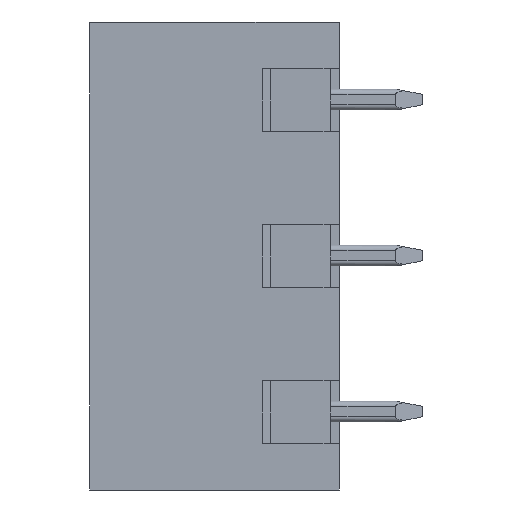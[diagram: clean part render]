
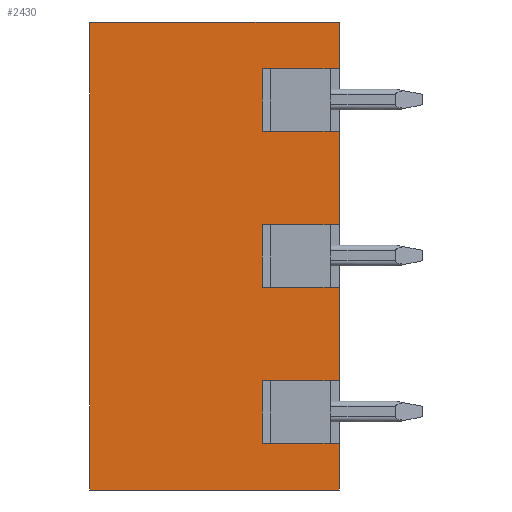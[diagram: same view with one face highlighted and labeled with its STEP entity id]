
A CAD part, left-side view. The second image highlights one B-rep face of the part: STEP entity #2430.
In plain terms, the highlighted planar face has unit normal (-1, 0, 0).
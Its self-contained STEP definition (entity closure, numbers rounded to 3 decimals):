
#1=DIRECTION('',(0.,1.,0.));
#2=VECTOR('',#1,12.);
#3=CARTESIAN_POINT('',(0.,0.,-35.49));
#4=LINE('',#3,#2);
#5=DIRECTION('',(0.,1.,0.));
#6=VECTOR('',#5,3.7);
#7=CARTESIAN_POINT('',(0.,0.,-15.24));
#8=LINE('',#7,#6);
#9=DIRECTION('',(0.,0.,-1.));
#10=VECTOR('',#9,3.);
#11=CARTESIAN_POINT('',(0.,3.7,-15.24));
#12=LINE('',#11,#10);
#13=DIRECTION('',(0.,-1.,0.));
#14=VECTOR('',#13,3.7);
#15=CARTESIAN_POINT('',(0.,3.7,-18.24));
#16=LINE('',#15,#14);
#17=DIRECTION('',(0.,1.,0.));
#18=VECTOR('',#17,3.7);
#19=CARTESIAN_POINT('',(0.,0.,-22.74));
#20=LINE('',#19,#18);
#21=DIRECTION('',(0.,0.,-1.));
#22=VECTOR('',#21,3.);
#23=CARTESIAN_POINT('',(0.,3.7,-22.74));
#24=LINE('',#23,#22);
#25=DIRECTION('',(0.,-1.,0.));
#26=VECTOR('',#25,3.7);
#27=CARTESIAN_POINT('',(0.,3.7,-25.74));
#28=LINE('',#27,#26);
#29=DIRECTION('',(0.,1.,0.));
#30=VECTOR('',#29,3.7);
#31=CARTESIAN_POINT('',(0.,0.,-30.24));
#32=LINE('',#31,#30);
#33=DIRECTION('',(0.,0.,-1.));
#34=VECTOR('',#33,3.);
#35=CARTESIAN_POINT('',(0.,3.7,-30.24));
#36=LINE('',#35,#34);
#37=DIRECTION('',(0.,-1.,0.));
#38=VECTOR('',#37,3.7);
#39=CARTESIAN_POINT('',(0.,3.7,-33.24));
#40=LINE('',#39,#38);
#49=DIRECTION('',(0.,0.,1.));
#50=VECTOR('',#49,2.25);
#51=CARTESIAN_POINT('',(0.,0.,-35.49));
#52=LINE('',#51,#50);
#57=DIRECTION('',(0.,0.,1.));
#58=VECTOR('',#57,4.5);
#59=CARTESIAN_POINT('',(0.,0.,-30.24));
#60=LINE('',#59,#58);
#65=DIRECTION('',(0.,0.,1.));
#66=VECTOR('',#65,4.5);
#67=CARTESIAN_POINT('',(0.,0.,-22.74));
#68=LINE('',#67,#66);
#73=DIRECTION('',(0.,0.,1.));
#74=VECTOR('',#73,2.25);
#75=CARTESIAN_POINT('',(0.,0.,-15.24));
#76=LINE('',#75,#74);
#775=DIRECTION('',(0.,0.,-1.));
#776=VECTOR('',#775,22.5);
#777=CARTESIAN_POINT('',(0.,12.,-12.99));
#778=LINE('',#777,#776);
#815=DIRECTION('',(0.,1.,0.));
#816=VECTOR('',#815,12.);
#817=CARTESIAN_POINT('',(0.,0.,-12.99));
#818=LINE('',#817,#816);
#1908=CARTESIAN_POINT('',(0.,0.,-35.49));
#1909=CARTESIAN_POINT('',(0.,12.,-35.49));
#1910=VERTEX_POINT('',#1908);
#1911=VERTEX_POINT('',#1909);
#1912=CARTESIAN_POINT('',(0.,12.,-12.99));
#1913=VERTEX_POINT('',#1912);
#1914=CARTESIAN_POINT('',(0.,0.,-12.99));
#1915=VERTEX_POINT('',#1914);
#1916=CARTESIAN_POINT('',(0.,0.,-15.24));
#1917=VERTEX_POINT('',#1916);
#1918=CARTESIAN_POINT('',(0.,3.7,-15.24));
#1919=VERTEX_POINT('',#1918);
#1920=CARTESIAN_POINT('',(0.,3.7,-18.24));
#1921=VERTEX_POINT('',#1920);
#1922=CARTESIAN_POINT('',(0.,0.,-18.24));
#1923=VERTEX_POINT('',#1922);
#1924=CARTESIAN_POINT('',(0.,0.,-22.74));
#1925=VERTEX_POINT('',#1924);
#1926=CARTESIAN_POINT('',(0.,3.7,-22.74));
#1927=VERTEX_POINT('',#1926);
#1928=CARTESIAN_POINT('',(0.,3.7,-25.74));
#1929=VERTEX_POINT('',#1928);
#1930=CARTESIAN_POINT('',(0.,0.,-25.74));
#1931=VERTEX_POINT('',#1930);
#1932=CARTESIAN_POINT('',(0.,0.,-30.24));
#1933=VERTEX_POINT('',#1932);
#1934=CARTESIAN_POINT('',(0.,3.7,-30.24));
#1935=VERTEX_POINT('',#1934);
#1936=CARTESIAN_POINT('',(0.,3.7,-33.24));
#1937=VERTEX_POINT('',#1936);
#1938=CARTESIAN_POINT('',(0.,0.,-33.24));
#1939=VERTEX_POINT('',#1938);
#2391=CARTESIAN_POINT('',(0.,12.,-36.56));
#2392=DIRECTION('',(-1.,0.,0.));
#2393=DIRECTION('',(0.,-1.,0.));
#2394=AXIS2_PLACEMENT_3D('',#2391,#2392,#2393);
#2395=PLANE('',#2394);
#2397=ORIENTED_EDGE('',*,*,#2396,.T.);
#2399=ORIENTED_EDGE('',*,*,#2398,.F.);
#2401=ORIENTED_EDGE('',*,*,#2400,.F.);
#2403=ORIENTED_EDGE('',*,*,#2402,.F.);
#2405=ORIENTED_EDGE('',*,*,#2404,.T.);
#2407=ORIENTED_EDGE('',*,*,#2406,.T.);
#2409=ORIENTED_EDGE('',*,*,#2408,.T.);
#2411=ORIENTED_EDGE('',*,*,#2410,.F.);
#2413=ORIENTED_EDGE('',*,*,#2412,.T.);
#2415=ORIENTED_EDGE('',*,*,#2414,.T.);
#2417=ORIENTED_EDGE('',*,*,#2416,.T.);
#2419=ORIENTED_EDGE('',*,*,#2418,.F.);
#2421=ORIENTED_EDGE('',*,*,#2420,.T.);
#2423=ORIENTED_EDGE('',*,*,#2422,.T.);
#2425=ORIENTED_EDGE('',*,*,#2424,.T.);
#2427=ORIENTED_EDGE('',*,*,#2426,.F.);
#2428=EDGE_LOOP('',(#2397,#2399,#2401,#2403,#2405,#2407,#2409,#2411,#2413,#2415,
#2417,#2419,#2421,#2423,#2425,#2427));
#2429=FACE_OUTER_BOUND('',#2428,.F.);
#2430=ADVANCED_FACE('',(#2429),#2395,.T.);
#2396=EDGE_CURVE('',#1910,#1911,#4,.T.);
#2398=EDGE_CURVE('',#1913,#1911,#778,.T.);
#2400=EDGE_CURVE('',#1915,#1913,#818,.T.);
#2402=EDGE_CURVE('',#1917,#1915,#76,.T.);
#2404=EDGE_CURVE('',#1917,#1919,#8,.T.);
#2406=EDGE_CURVE('',#1919,#1921,#12,.T.);
#2408=EDGE_CURVE('',#1921,#1923,#16,.T.);
#2410=EDGE_CURVE('',#1925,#1923,#68,.T.);
#2412=EDGE_CURVE('',#1925,#1927,#20,.T.);
#2414=EDGE_CURVE('',#1927,#1929,#24,.T.);
#2416=EDGE_CURVE('',#1929,#1931,#28,.T.);
#2418=EDGE_CURVE('',#1933,#1931,#60,.T.);
#2420=EDGE_CURVE('',#1933,#1935,#32,.T.);
#2422=EDGE_CURVE('',#1935,#1937,#36,.T.);
#2424=EDGE_CURVE('',#1937,#1939,#40,.T.);
#2426=EDGE_CURVE('',#1910,#1939,#52,.T.);
